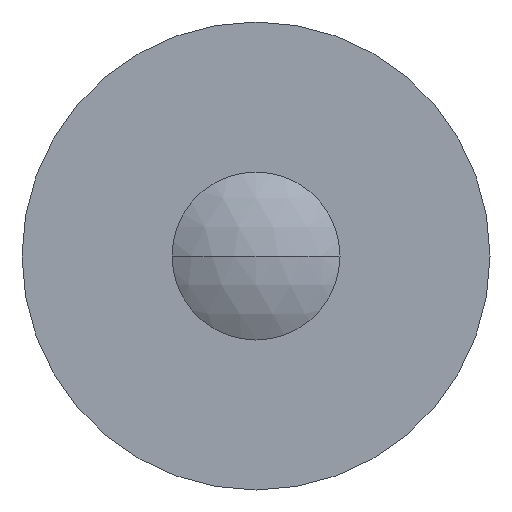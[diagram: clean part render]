
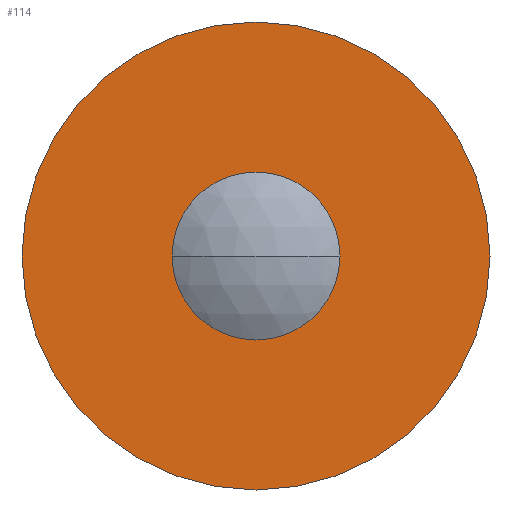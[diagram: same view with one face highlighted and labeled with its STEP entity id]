
A CAD part, front view. The second image highlights one B-rep face of the part: STEP entity #114.
In plain terms, the highlighted planar face has unit normal (0, -1, 0).
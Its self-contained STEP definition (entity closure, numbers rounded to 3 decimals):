
#114=ADVANCED_FACE('',(#202,#203),#204,.F.);
#202=FACE_OUTER_BOUND('',#293,.T.);
#203=FACE_BOUND('',#294,.T.);
#204=PLANE('',#295);
#293=EDGE_LOOP('',(#595,#596));
#294=EDGE_LOOP('',(#597,#598));
#295=AXIS2_PLACEMENT_3D('',#599,#600,#601);
#595=ORIENTED_EDGE('',*,*,#701,.T.);
#596=ORIENTED_EDGE('',*,*,#703,.T.);
#597=ORIENTED_EDGE('',*,*,#704,.F.);
#598=ORIENTED_EDGE('',*,*,#705,.F.);
#599=CARTESIAN_POINT('',(-9.05,-2.5,0.0));
#600=DIRECTION('',(-0.0,1.0,0.0));
#601=DIRECTION('',(1.0,0.0,0.0));
#701=EDGE_CURVE('',#852,#850,#853,.T.);
#703=EDGE_CURVE('',#850,#852,#855,.T.);
#704=EDGE_CURVE('',#856,#857,#858,.T.);
#705=EDGE_CURVE('',#857,#856,#859,.T.);
#850=VERTEX_POINT('',#1071);
#852=VERTEX_POINT('',#1074);
#853=CIRCLE('',#1075,9.75);
#855=CIRCLE('',#1078,9.75);
#856=VERTEX_POINT('',#1079);
#857=VERTEX_POINT('',#1080);
#858=CIRCLE('',#1081,3.5);
#859=CIRCLE('',#1082,3.5);
#1071=CARTESIAN_POINT('',(0.7,-2.5,9.75));
#1074=CARTESIAN_POINT('',(0.7,-2.5,-9.75));
#1075=AXIS2_PLACEMENT_3D('',#1213,#1214,#1215);
#1078=AXIS2_PLACEMENT_3D('',#1217,#1218,#1219);
#1079=CARTESIAN_POINT('',(-2.8,-2.5,0.0));
#1080=CARTESIAN_POINT('',(4.2,-2.5,0.));
#1081=AXIS2_PLACEMENT_3D('',#1220,#1221,#1222);
#1082=AXIS2_PLACEMENT_3D('',#1223,#1224,#1225);
#1213=CARTESIAN_POINT('',(0.7,-2.5,0.0));
#1214=DIRECTION('',(0.0,-1.0,0.0));
#1215=DIRECTION('',(0.0,0.0,-1.0));
#1217=CARTESIAN_POINT('',(0.7,-2.5,0.0));
#1218=DIRECTION('',(0.0,-1.0,0.0));
#1219=DIRECTION('',(0.0,0.0,-1.0));
#1220=CARTESIAN_POINT('',(0.7,-2.5,0.0));
#1221=DIRECTION('',(0.0,-1.0,0.0));
#1222=DIRECTION('',(0.0,0.0,-1.0));
#1223=CARTESIAN_POINT('',(0.7,-2.5,0.0));
#1224=DIRECTION('',(0.0,-1.0,0.0));
#1225=DIRECTION('',(0.0,0.0,-1.0));
